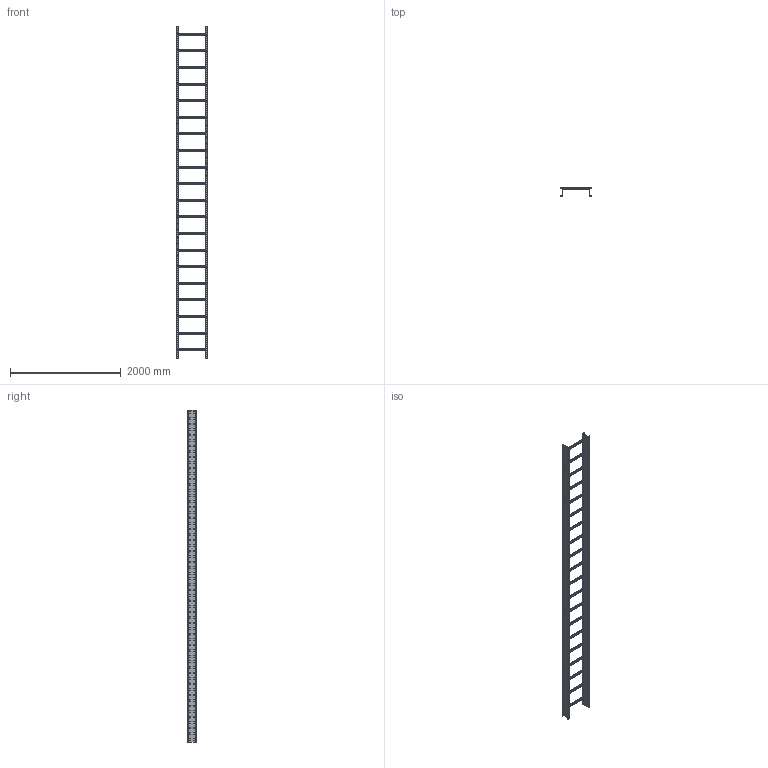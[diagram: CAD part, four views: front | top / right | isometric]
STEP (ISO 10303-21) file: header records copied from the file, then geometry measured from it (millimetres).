
FILE_DESCRIPTION(('Creo Elements/Direct Modeling STEP Export'),'2;1');
FILE_NAME('WP15-50.stp','2016-05-13T13:23:32',(''),(''),'PTC Creo Elements/Direct Modeling STEP processor for AP214 (Solid Model)','PTC Creo Elements/Direct Modeling 19.0C 15-Aug-2015 (C) Parametric Technology GmbH','');
FILE_SCHEMA(('AUTOMOTIVE_DESIGN { 1 0 10303 214 1 1 1 1 }'));
Length unit declared in the file: millimetre
Products named in the file (3): WPH150; WPSP_05.8; WP15-50-HDG
Assembly tree (22 placements, depth 2):
  WP15-50-HDG
    WPSP_05.8  x20
    WPH150  x2
Bounding box: 550 x 150 x 6000 mm (x, y, z)
Volume: 5768263.8 mm3; surface area: 7002047.4 mm2
Topology: 22 solids, 22 shells, 3692 faces, 10944 edges, 7296 vertices
Faces by surface type: plane 2292, cylinder 1400
Entity records: 24846 total; most frequent: ORIENTED_EDGE 4356, CARTESIAN_POINT 4297, DIRECTION 3835, EDGE_CURVE 2178, VECTOR 1855, LINE 1855, VERTEX_POINT 1452, EDGE_LOOP 1088
